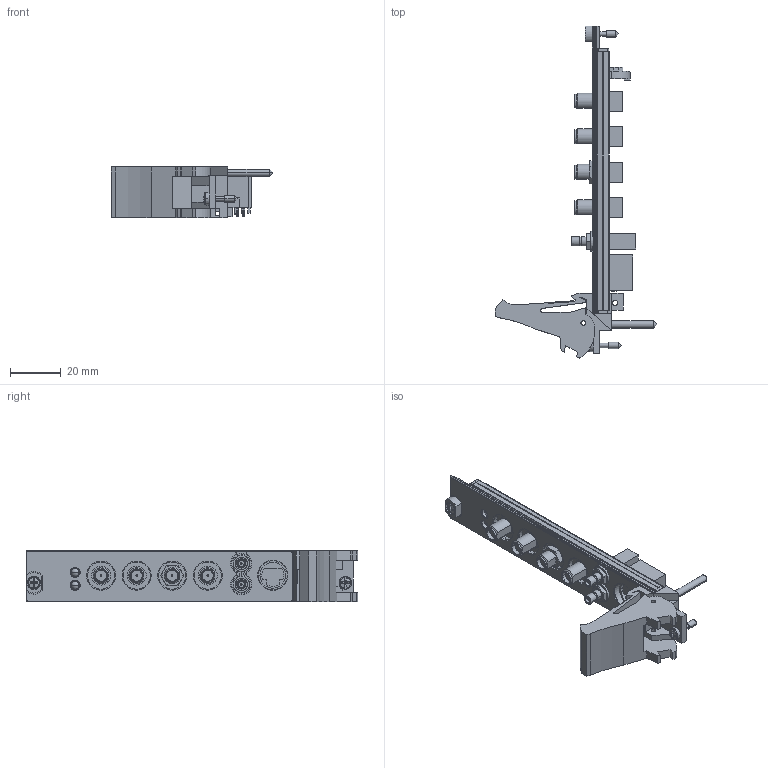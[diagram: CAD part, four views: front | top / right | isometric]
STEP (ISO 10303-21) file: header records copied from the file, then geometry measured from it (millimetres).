
FILE_DESCRIPTION((''),'2;1');
FILE_NAME('CU_PXIE-5641R','2009-12-31T',('jjorden'),(''),'PRO/ENGINEER BY PARAMETRIC TECHNOLOGY CORPORATION, 2006080','PRO/ENGINEER BY PARAMETRIC TECHNOLOGY CORPORATION, 2006080','');
FILE_SCHEMA(('CONFIG_CONTROL_DESIGN'));
Length unit declared in the file: inch
Products named in the file (1): CU_PXIE-5641R
Bounding box: 63.53 x 130.5 x 20.31 mm (x, y, z)
Volume: 22092.5 mm3; surface area: 21634.8 mm2
Topology: 4 solids, 4 shells, 975 faces, 2497 edges, 1581 vertices
Faces by surface type: plane 575, cylinder 282, torus 60, cone 50, sphere 8
Entity records: 31147 total; most frequent: CARTESIAN_POINT 6834, DIRECTION 5201, ORIENTED_EDGE 4978, EDGE_CURVE 2489, AXIS2_PLACEMENT_3D 1818, VERTEX_POINT 1581, VECTOR 1565, LINE 1565
